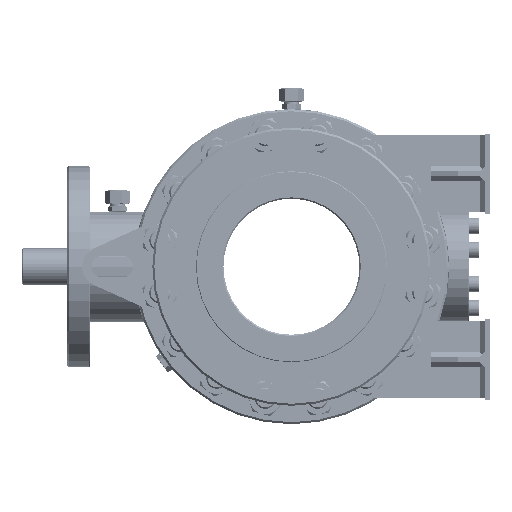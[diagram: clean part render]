
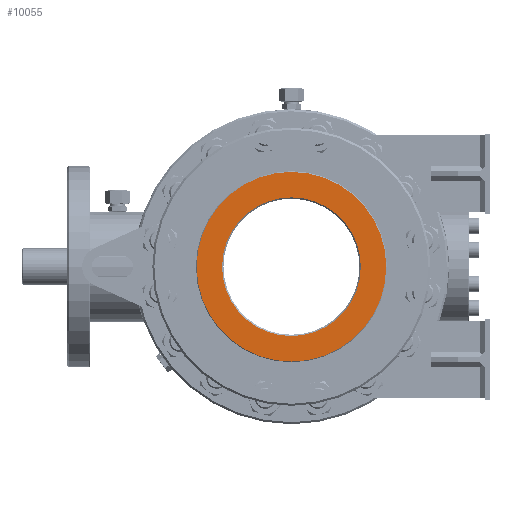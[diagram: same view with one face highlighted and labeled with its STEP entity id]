
A CAD part, left-side view. The second image highlights one B-rep face of the part: STEP entity #10055.
In plain terms, the highlighted planar face has unit normal (-1, 0, 0) as drawn and (1, 0, 0) by its records, which use the part's own axes.
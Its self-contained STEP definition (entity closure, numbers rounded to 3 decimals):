
#333 = AXIS2_PLACEMENT_3D ( 'NONE', #33094, #10199, #36938 ) ;
#3528 = DIRECTION ( 'NONE',  ( -1., 0., 0. ) ) ;
#4258 = CIRCLE ( 'NONE', #38125, 141.5 ) ;
#4418 = CIRCLE ( 'NONE', #11784, 103.5 ) ;
#5398 = VERTEX_POINT ( 'NONE', #9845 ) ;
#7254 = DIRECTION ( 'NONE',  ( -1., 0., 0. ) ) ;
#9845 = CARTESIAN_POINT ( 'NONE',  ( 208., 0., 103.5 ) ) ;
#10055 = ADVANCED_FACE ( 'NONE', ( #39377, #10062 ), #48840, .F. ) ;
#10062 = FACE_BOUND ( 'NONE', #29261, .T. ) ;
#10199 = DIRECTION ( 'NONE',  ( -1., 0., 0. ) ) ;
#10523 = ORIENTED_EDGE ( 'NONE', *, *, #13415, .T. ) ;
#11513 = CARTESIAN_POINT ( 'NONE',  ( 208., 0., -141.5 ) ) ;
#11784 = AXIS2_PLACEMENT_3D ( 'NONE', #35033, #12139, #38908 ) ;
#12139 = DIRECTION ( 'NONE',  ( -1., 0., 0. ) ) ;
#13046 = EDGE_CURVE ( 'NONE', #23797, #23544, #4258, .T. ) ;
#13415 = EDGE_CURVE ( 'NONE', #5398, #47747, #13732, .T. ) ;
#13732 = CIRCLE ( 'NONE', #333, 103.5 ) ;
#13824 = CARTESIAN_POINT ( 'NONE',  ( 208., 0., 141.5 ) ) ;
#14472 = CIRCLE ( 'NONE', #37380, 141.5 ) ;
#14622 = ORIENTED_EDGE ( 'NONE', *, *, #34306, .F. ) ;
#18304 = CARTESIAN_POINT ( 'NONE',  ( 208., 103.5, 0. ) ) ;
#20066 = ORIENTED_EDGE ( 'NONE', *, *, #13046, .F. ) ;
#22144 = DIRECTION ( 'NONE',  ( -1., 0., 0. ) ) ;
#22693 = AXIS2_PLACEMENT_3D ( 'NONE', #18304, #22144, #48992 ) ;
#23544 = VERTEX_POINT ( 'NONE', #13824 ) ;
#23797 = VERTEX_POINT ( 'NONE', #11513 ) ;
#26413 = CARTESIAN_POINT ( 'NONE',  ( 208., 0., 0. ) ) ;
#29261 = EDGE_LOOP ( 'NONE', ( #29716, #10523 ) ) ;
#29716 = ORIENTED_EDGE ( 'NONE', *, *, #47902, .T. ) ;
#30123 = CARTESIAN_POINT ( 'NONE',  ( 208., 0., 0. ) ) ;
#30240 = DIRECTION ( 'NONE',  ( 0., 0., 1. ) ) ;
#33094 = CARTESIAN_POINT ( 'NONE',  ( 208., 0., 0. ) ) ;
#33958 = DIRECTION ( 'NONE',  ( 0., 0., 1. ) ) ;
#34306 = EDGE_CURVE ( 'NONE', #23544, #23797, #14472, .T. ) ;
#35033 = CARTESIAN_POINT ( 'NONE',  ( 208., 0., 0. ) ) ;
#36938 = DIRECTION ( 'NONE',  ( 0., 0., 1. ) ) ;
#37380 = AXIS2_PLACEMENT_3D ( 'NONE', #26413, #3528, #30240 ) ;
#38125 = AXIS2_PLACEMENT_3D ( 'NONE', #30123, #7254, #33958 ) ;
#38908 = DIRECTION ( 'NONE',  ( 0., 0., 1. ) ) ;
#39377 = FACE_OUTER_BOUND ( 'NONE', #44920, .T. ) ;
#44920 = EDGE_LOOP ( 'NONE', ( #14622, #20066 ) ) ;
#47747 = VERTEX_POINT ( 'NONE', #49387 ) ;
#47902 = EDGE_CURVE ( 'NONE', #47747, #5398, #4418, .T. ) ;
#48840 = PLANE ( 'NONE',  #22693 ) ;
#48992 = DIRECTION ( 'NONE',  ( 0., 0., 1. ) ) ;
#49387 = CARTESIAN_POINT ( 'NONE',  ( 208., 0., -103.5 ) ) ;
